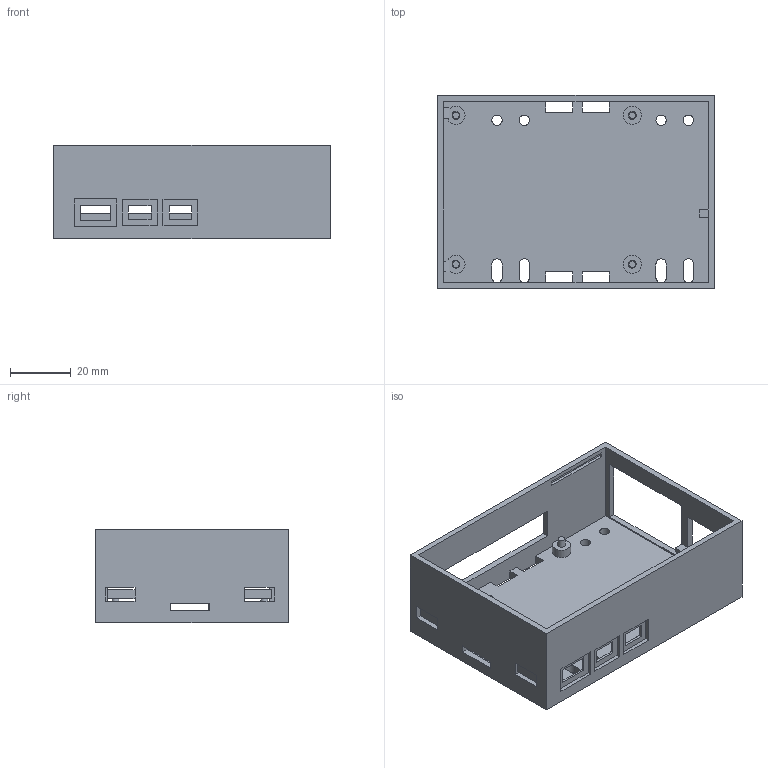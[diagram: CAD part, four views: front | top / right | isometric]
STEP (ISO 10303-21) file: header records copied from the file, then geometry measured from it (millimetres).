
FILE_DESCRIPTION(('FreeCAD Model'),'2;1');
FILE_NAME('Open CASCADE Shape Model','2026-09-06T15:19:33',('FreeCAD'),( 'FreeCAD'),'Open CASCADE STEP processor 7.8','FreeCAD','Unknown');
FILE_SCHEMA(('AUTOMOTIVE_DESIGN { 1 0 10303 214 1 1 1 1 }'));
Length unit declared in the file: millimetre
Products named in the file (1): Open CASCADE STEP translator 7.8 1
Bounding box: 91 x 63.5 x 30.7 mm (x, y, z)
Volume: 29611.8 mm3; surface area: 27440.8 mm2
Topology: 1 solids, 1 shells, 415 faces, 1164 edges, 776 vertices
Faces by surface type: plane 217, extrusion 178, cylinder 16, cone 4
Full cylindrical faces by diameter (mm): 3.4 x4, 6 x4
Entity records: 14902 total; most frequent: CARTESIAN_POINT 4752, ORIENTED_EDGE 2328, DIRECTION 1509, EDGE_CURVE 1164, VECTOR 937, VERTEX_POINT 776, LINE 759, B_SPLINE_CURVE_WITH_KNOTS 535
